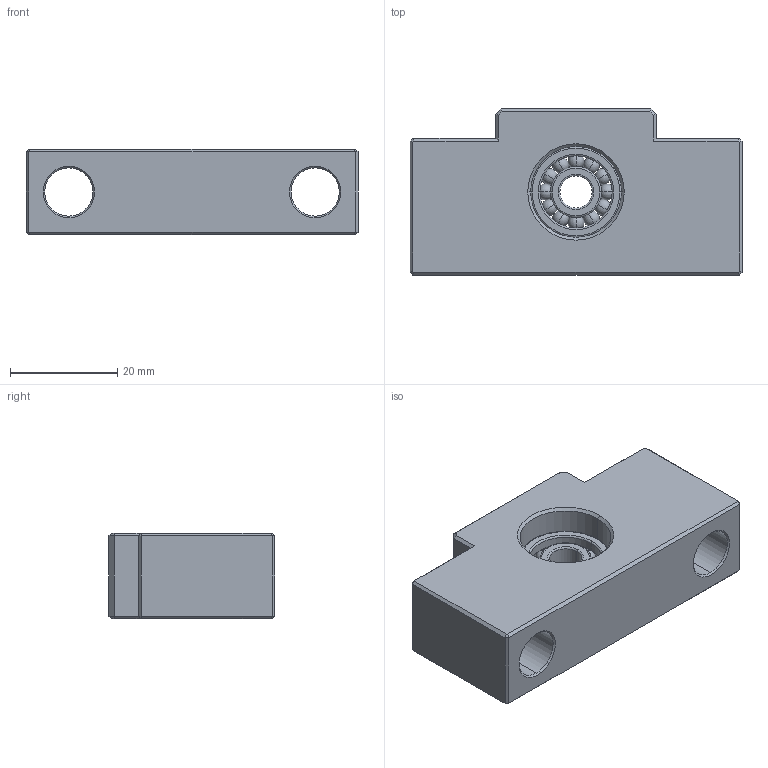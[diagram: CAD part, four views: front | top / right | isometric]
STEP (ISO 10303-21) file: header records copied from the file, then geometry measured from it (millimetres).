
FILE_DESCRIPTION (( 'STEP AP203' ), '1' );
FILE_NAME ('LF08.STEP', '2009-07-09T00:57:44', ( '無限使用' ), ( 'FDZone.ORG' ), 'SwSTEP 2.0', 'SolidWorks 2008', '' );
FILE_SCHEMA (( 'CONFIG_CONTROL_DESIGN' ));
Length unit declared in the file: millimetre
Products named in the file (1): LF08
Bounding box: 62 x 31 x 16 mm (x, y, z)
Volume: 19578.7 mm3; surface area: 9687.3 mm2
Topology: 15 solids, 15 shells, 130 faces, 312 edges, 190 vertices
Faces by surface type: plane 50, sphere 24, cylinder 22, torus 22, cone 12
Entity records: 3369 total; most frequent: DIRECTION 634, CARTESIAN_POINT 537, ORIENTED_EDGE 504, EDGE_CURVE 252, AXIS2_PLACEMENT_3D 251, VERTEX_POINT 154, EDGE_LOOP 142, VECTOR 132
